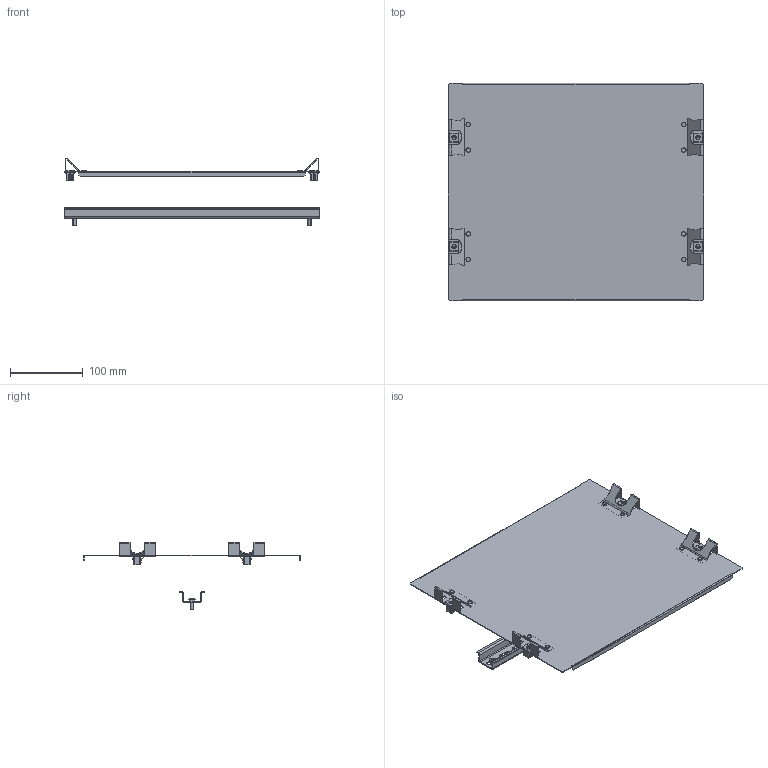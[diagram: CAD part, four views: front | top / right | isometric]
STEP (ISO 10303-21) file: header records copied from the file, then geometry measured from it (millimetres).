
FILE_DESCRIPTION (( 'STEP AP203' ), '1' );
FILE_NAME ('R5ISP430S.STEP', '2022-04-13T09:12:08', ( '' ), ( '' ), 'SwSTEP 2.0', 'SolidWorks 2020', '' );
FILE_SCHEMA (( 'CONFIG_CONTROL_DESIGN' ));
Length unit declared in the file: millimetre
Products named in the file (11): RB.2138.00.01.0_-05; 294-9118.00-00050; RB.0392.00.02.0_-01; R5ISP430S; RB.2138.00.00.0 捘_-05; RB.0376.00.00.0_-00; RB.0517.00.00.0_-01; M5x12 DIN 7500 C Torx Zinc_stright
Assembly tree (17 placements, depth 3):
  R5ISP430S
    RB.2138.00.00.0 捘_-05
      RB.2138.00.01.0_-05
      RB.0392.00.02.0_-01
      RB.0392.00.02.0_-01
      RB.0392.00.02.0_-01
      RB.0392.00.02.0_-01
    RB.0517.00.00.0_-01
    M5x12 DIN 7500 C Torx Zinc_stright  x2
    294-9118.00-00050  x4
    RB.0376.00.00.0_-00  x4
Bounding box: 350 x 298 x 93.03 mm (x, y, z)
Volume: 149479 mm3; surface area: 280295 mm2
Topology: 16 solids, 16 shells, 1090 faces, 2686 edges, 1666 vertices
Faces by surface type: plane 744, cylinder 226, cone 40, bspline 36, torus 24, sphere 20
Entity records: 21407 total; most frequent: CARTESIAN_POINT 3820, DIRECTION 3400, ORIENTED_EDGE 3304, EDGE_CURVE 1652, VECTOR 1202, LINE 1202, AXIS2_PLACEMENT_3D 1099, VERTEX_POINT 1039
